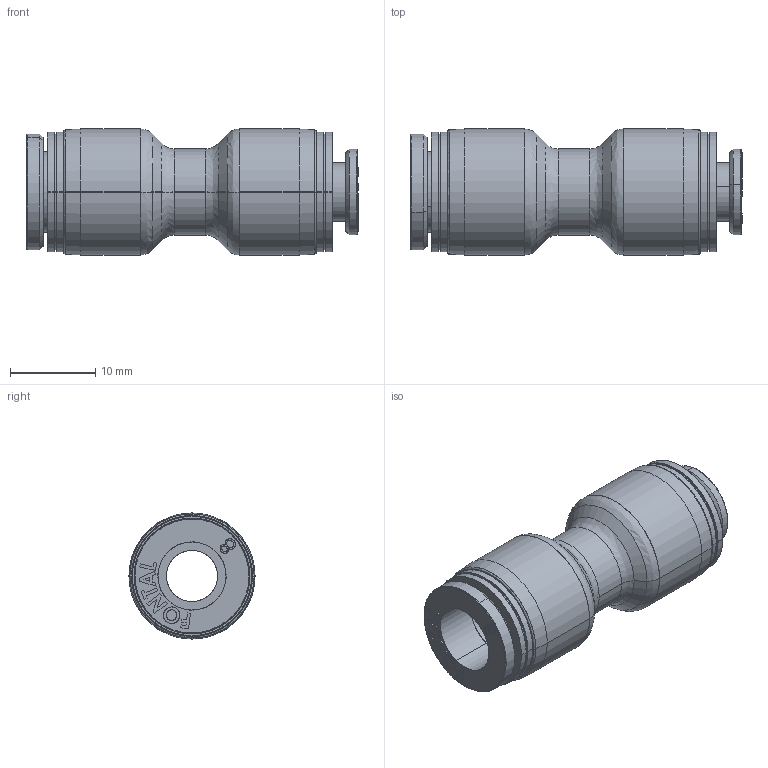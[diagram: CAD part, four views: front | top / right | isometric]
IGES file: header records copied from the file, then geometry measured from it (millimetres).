
Start section: SolidWorks IGES file using analytic representation for surfaces
Global section: file name: D:\Custom\3D繪製\ADDITIONAL\FPG\FPG8-6.IGS, ; native system: SolidWorks 2014; preprocessor: SolidWorks 2014; author: Chieh_Lu; date: 160115.045916; units: millimetre
Bounding box: 38.97 x 14.8 x 14.8 mm (x, y, z)
Surface area: 3267.2 mm2 (no closed solid volume)
Topology: 0 solids, 0 shells, 243 faces, 2746 edges, 2742 vertices
Faces by surface type: bspline 193, revolution 50
